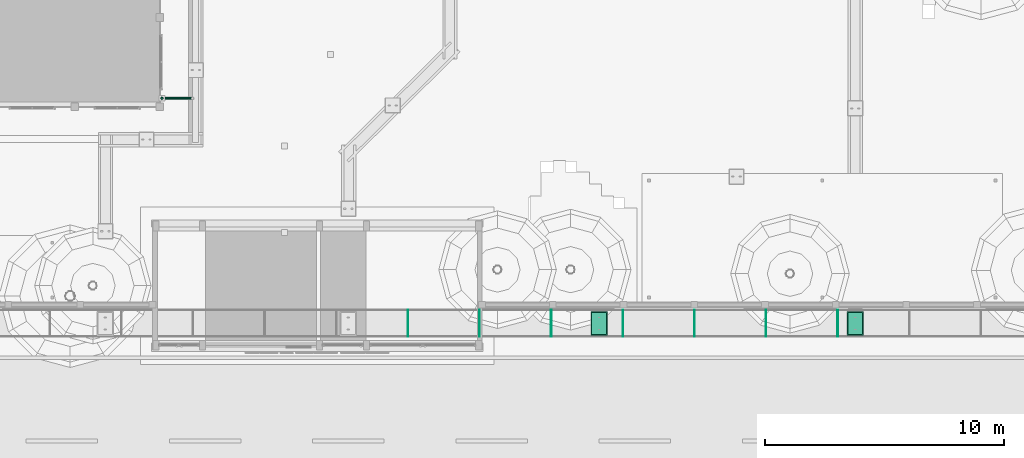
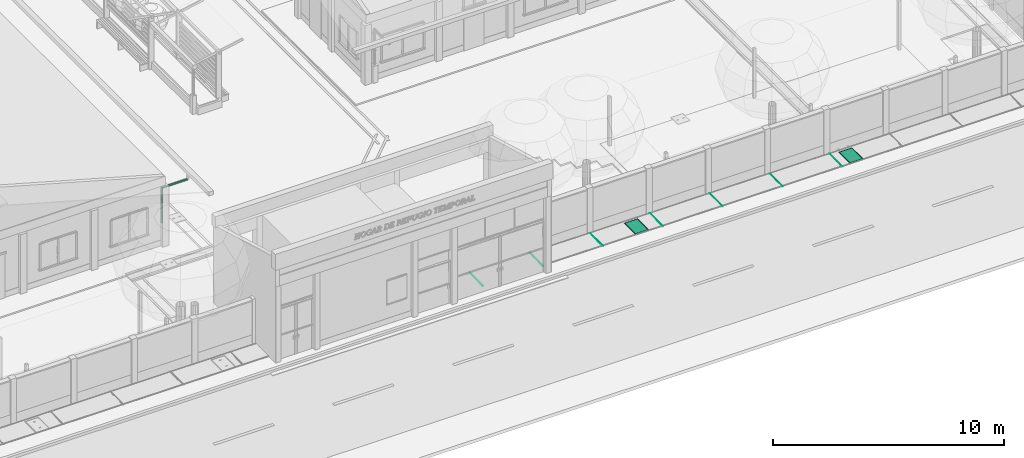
# One storey, part 97 of 177: 9 pipe segments, 4 distribution chamber elements.
"""IFC4 building model written with IfcOpenShell, lengths in metres."""

from ifc_helpers import new_model, si_unit, origin, origin_with_axes, place, context, subcontext, project, spatial, triangles, element, save


model = new_model("IFC4")

# Units and contexts
model_context = context("Model", 3, precision=1e-05, world=origin_with_axes())
body_context = subcontext(model_context, "Body", "Model", "MODEL_VIEW")
ifc_project = project(units=[si_unit("LENGTHUNIT", "METRE"), si_unit("AREAUNIT", "SQUARE_METRE"), si_unit("VOLUMEUNIT", "CUBIC_METRE"), si_unit("PLANEANGLEUNIT", "RADIAN")], contexts=[model_context])

# Site, building, storey
site_placement = place(None, origin_with_axes())
site = spatial("IfcSite", under=ifc_project, at=site_placement, Name="Predio Los Mangos - Morales, San Martín", CompositionType="ELEMENT")
building_placement = place(site_placement, origin())
building = spatial("IfcBuilding", under=site, at=building_placement, Name="Hogar de Refugio Temporal", CompositionType="ELEMENT")
storey_placement = place(building_placement, origin())
storey = spatial("IfcBuildingStorey", under=building, at=storey_placement, Name="NIVEL 1 (NPT +0.00)", CompositionType="ELEMENT", Elevation=0.0)

# Pipe segments
pipe_segment_1_placement = place(storey_placement, origin())
element("IfcPipeSegment", 1, at=pipe_segment_1_placement, inside=storey, Name="montante_desvio", ObjectType="Montante PVC 4\"", PredefinedType="RIGIDSEGMENT", context=body_context, shape_type="Tessellation", body=[
    triangles([(32.98, 26.65, 2.965), (31.69, 26.65, 2.965), (32.98, 26.6225, 2.9576), (31.69, 26.6225, 2.9576), (32.98, 26.6024, 2.9375), (31.69, 26.6024, 2.9375), (32.98, 26.595, 2.91), (31.69, 26.595, 2.91), (32.98, 26.6024, 2.8825), (31.69, 26.6024, 2.8825), (32.98, 26.6225, 2.8624), (31.69, 26.6225, 2.8624), (32.98, 26.65, 2.855), (31.69, 26.65, 2.855), (32.98, 26.6775, 2.8624), (31.69, 26.6775, 2.8624), (32.98, 26.6976, 2.8825), (31.69, 26.6976, 2.8825), (32.98, 26.705, 2.91), (31.69, 26.705, 2.91), (32.98, 26.6976, 2.9375), (31.69, 26.6976, 2.9375), (32.98, 26.6775, 2.9576), (31.69, 26.6775, 2.9576)], [[1, 2, 4], [1, 4, 3], [3, 4, 6], [3, 6, 5], [5, 6, 8], [5, 8, 7], [7, 8, 10], [7, 10, 9], [9, 10, 12], [9, 12, 11], [11, 12, 14], [11, 14, 13], [13, 14, 16], [13, 16, 15], [15, 16, 18], [15, 18, 17], [17, 18, 20], [17, 20, 19], [19, 20, 22], [19, 22, 21], [6, 4, 2], [2, 24, 22], [22, 20, 18], [18, 16, 14], [14, 12, 10], [10, 8, 6], [6, 2, 22], [22, 18, 14], [14, 10, 6], [22, 14, 6], [21, 22, 24], [21, 24, 23], [23, 24, 2], [23, 2, 1], [23, 1, 3], [3, 5, 7], [7, 9, 11], [11, 13, 15], [15, 17, 19], [19, 21, 23], [23, 3, 7], [7, 11, 15], [15, 19, 23], [7, 15, 23]]),
])
pipe_segment_2_placement = place(storey_placement, origin())
element("IfcPipeSegment", 2, at=pipe_segment_2_placement, inside=storey, Name="montante_bajada", ObjectType="Montante PVC 4\"", PredefinedType="RIGIDSEGMENT", context=body_context, shape_type="Tessellation", body=[
    triangles([(31.69, 26.705, 2.91), (31.69, 26.705, 1.05), (31.6625, 26.6976, 2.91), (31.6625, 26.6976, 1.05), (31.6424, 26.6775, 2.91), (31.6424, 26.6775, 1.05), (31.635, 26.65, 2.91), (31.635, 26.65, 1.05), (31.6424, 26.6225, 2.91), (31.6424, 26.6225, 1.05), (31.6625, 26.6024, 2.91), (31.6625, 26.6024, 1.05), (31.69, 26.595, 2.91), (31.69, 26.595, 1.05), (31.7175, 26.6024, 2.91), (31.7175, 26.6024, 1.05), (31.7376, 26.6225, 2.91), (31.7376, 26.6225, 1.05), (31.745, 26.65, 2.91), (31.745, 26.65, 1.05), (31.7376, 26.6775, 2.91), (31.7376, 26.6775, 1.05), (31.7175, 26.6976, 2.91), (31.7175, 26.6976, 1.05)], [[1, 2, 4], [1, 4, 3], [3, 4, 6], [3, 6, 5], [5, 6, 8], [5, 8, 7], [7, 8, 10], [7, 10, 9], [9, 10, 12], [9, 12, 11], [11, 12, 14], [11, 14, 13], [13, 14, 16], [13, 16, 15], [15, 16, 18], [15, 18, 17], [17, 18, 20], [17, 20, 19], [19, 20, 22], [19, 22, 21], [6, 4, 2], [2, 24, 22], [22, 20, 18], [18, 16, 14], [14, 12, 10], [10, 8, 6], [6, 2, 22], [22, 18, 14], [14, 10, 6], [22, 14, 6], [21, 22, 24], [21, 24, 23], [23, 24, 2], [23, 2, 1], [23, 1, 3], [3, 5, 7], [7, 9, 11], [11, 13, 15], [15, 17, 19], [19, 21, 23], [23, 3, 7], [7, 11, 15], [15, 19, 23], [7, 15, 23]]),
])
pipe_segment_3_placement = place(storey_placement, origin())
element("IfcPipeSegment", 3, at=pipe_segment_3_placement, inside=storey, Name="junta_losa", ObjectType="Colector frontal b=0.80 (losa-vereda)", PredefinedType="CULVERT", context=body_context, shape_type="Tessellation", body=[
    triangles([(59.9873, 16.665, 0.15), (60.0127, 16.665, 0.15), (60.0127, 17.79, 0.15), (59.9873, 17.79, 0.15), (59.9873, 16.665, 0.1635), (60.0127, 16.665, 0.1635), (60.0127, 17.79, 0.1635), (59.9873, 17.79, 0.1635)], [[1, 4, 3], [1, 3, 2], [5, 6, 7], [5, 7, 8], [1, 2, 6], [1, 6, 5], [2, 3, 7], [2, 7, 6], [3, 4, 8], [3, 8, 7], [4, 1, 5], [4, 5, 8]]),
])
pipe_segment_4_placement = place(storey_placement, origin())
element("IfcPipeSegment", 4, at=pipe_segment_4_placement, inside=storey, Name="junta_losa", ObjectType="Colector frontal b=0.80 (losa-vereda)", PredefinedType="CULVERT", context=body_context, shape_type="Tessellation", body=[
    triangles([(56.9873, 16.665, 0.15), (57.0127, 16.665, 0.15), (57.0127, 17.79, 0.15), (56.9873, 17.79, 0.15), (56.9873, 16.665, 0.1635), (57.0127, 16.665, 0.1635), (57.0127, 17.79, 0.1635), (56.9873, 17.79, 0.1635)], [[1, 4, 3], [1, 3, 2], [5, 6, 7], [5, 7, 8], [1, 2, 6], [1, 6, 5], [2, 3, 7], [2, 7, 6], [3, 4, 8], [3, 8, 7], [4, 1, 5], [4, 5, 8]]),
])
pipe_segment_5_placement = place(storey_placement, origin())
element("IfcPipeSegment", 5, at=pipe_segment_5_placement, inside=storey, Name="junta_losa", ObjectType="Colector frontal b=0.80 (losa-vereda)", PredefinedType="CULVERT", context=body_context, shape_type="Tessellation", body=[
    triangles([(53.9873, 16.665, 0.15), (54.0127, 16.665, 0.15), (54.0127, 17.79, 0.15), (53.9873, 17.79, 0.15), (53.9873, 16.665, 0.1635), (54.0127, 16.665, 0.1635), (54.0127, 17.79, 0.1635), (53.9873, 17.79, 0.1635)], [[1, 4, 3], [1, 3, 2], [5, 6, 7], [5, 7, 8], [1, 2, 6], [1, 6, 5], [2, 3, 7], [2, 7, 6], [3, 4, 8], [3, 8, 7], [4, 1, 5], [4, 5, 8]]),
])
pipe_segment_6_placement = place(storey_placement, origin())
element("IfcPipeSegment", 6, at=pipe_segment_6_placement, inside=storey, Name="junta_losa", ObjectType="Colector frontal b=0.80 (losa-vereda)", PredefinedType="CULVERT", context=body_context, shape_type="Tessellation", body=[
    triangles([(50.9873, 16.665, 0.15), (51.0127, 16.665, 0.15), (51.0127, 17.79, 0.15), (50.9873, 17.79, 0.15), (50.9873, 16.665, 0.1635), (51.0127, 16.665, 0.1635), (51.0127, 17.79, 0.1635), (50.9873, 17.79, 0.1635)], [[1, 4, 3], [1, 3, 2], [5, 6, 7], [5, 7, 8], [1, 2, 6], [1, 6, 5], [2, 3, 7], [2, 7, 6], [3, 4, 8], [3, 8, 7], [4, 1, 5], [4, 5, 8]]),
])
pipe_segment_7_placement = place(storey_placement, origin())
element("IfcPipeSegment", 7, at=pipe_segment_7_placement, inside=storey, Name="junta_losa", ObjectType="Colector frontal b=0.80 (losa-vereda)", PredefinedType="CULVERT", context=body_context, shape_type="Tessellation", body=[
    triangles([(47.9873, 16.665, 0.15), (48.0127, 16.665, 0.15), (48.0127, 17.79, 0.15), (47.9873, 17.79, 0.15), (47.9873, 16.665, 0.1635), (48.0127, 16.665, 0.1635), (48.0127, 17.79, 0.1635), (47.9873, 17.79, 0.1635)], [[1, 4, 3], [1, 3, 2], [5, 6, 7], [5, 7, 8], [1, 2, 6], [1, 6, 5], [2, 3, 7], [2, 7, 6], [3, 4, 8], [3, 8, 7], [4, 1, 5], [4, 5, 8]]),
])
pipe_segment_8_placement = place(storey_placement, origin())
element("IfcPipeSegment", 8, at=pipe_segment_8_placement, inside=storey, Name="junta_losa", ObjectType="Colector frontal b=0.80 (losa-vereda)", PredefinedType="CULVERT", context=body_context, shape_type="Tessellation", body=[
    triangles([(44.9873, 16.665, 0.15), (45.0127, 16.665, 0.15), (45.0127, 17.79, 0.15), (44.9873, 17.79, 0.15), (44.9873, 16.665, 0.1635), (45.0127, 16.665, 0.1635), (45.0127, 17.79, 0.1635), (44.9873, 17.79, 0.1635)], [[1, 4, 3], [1, 3, 2], [5, 6, 7], [5, 7, 8], [1, 2, 6], [1, 6, 5], [2, 3, 7], [2, 7, 6], [3, 4, 8], [3, 8, 7], [4, 1, 5], [4, 5, 8]]),
])
pipe_segment_9_placement = place(storey_placement, origin())
element("IfcPipeSegment", 9, at=pipe_segment_9_placement, inside=storey, Name="junta_losa", ObjectType="Colector frontal b=0.80 (losa-vereda)", PredefinedType="CULVERT", context=body_context, shape_type="Tessellation", body=[
    triangles([(41.9873, 16.665, 0.15), (42.0127, 16.665, 0.15), (42.0127, 17.79, 0.15), (41.9873, 17.79, 0.15), (41.9873, 16.665, 0.1635), (42.0127, 16.665, 0.1635), (42.0127, 17.79, 0.1635), (41.9873, 17.79, 0.1635)], [[1, 4, 3], [1, 3, 2], [5, 6, 7], [5, 7, 8], [1, 2, 6], [1, 6, 5], [2, 3, 7], [2, 7, 6], [3, 4, 8], [3, 8, 7], [4, 1, 5], [4, 5, 8]]),
])

# Distribution chamber elements
distribution_chamber_element_1_placement = place(storey_placement, origin())
element("IfcDistributionChamberElement", 10, at=distribution_chamber_element_1_placement, inside=storey, Name="tapa_junta", ObjectType="Tapa ciega de registro del colector", PredefinedType="INSPECTIONCHAMBER", context=body_context, shape_type="Tessellation", body=[
    triangles([(60.385, 16.72, 0.161), (61.075, 16.72, 0.161), (61.075, 17.71, 0.161), (60.385, 17.71, 0.161), (60.385, 16.72, 0.164), (61.075, 16.72, 0.164), (61.075, 17.71, 0.164), (60.385, 17.71, 0.164)], [[1, 4, 3], [1, 3, 2], [5, 6, 7], [5, 7, 8], [1, 2, 6], [1, 6, 5], [2, 3, 7], [2, 7, 6], [3, 4, 8], [3, 8, 7], [4, 1, 5], [4, 5, 8]]),
])
distribution_chamber_element_2_placement = place(storey_placement, origin())
element("IfcDistributionChamberElement", 11, at=distribution_chamber_element_2_placement, inside=storey, Name="tapa_ciega", ObjectType="Tapa ciega de registro del colector", PredefinedType="INSPECTIONCHAMBER", context=body_context, shape_type="Tessellation", body=[
    triangles([(60.42, 16.755, 0.161), (61.04, 16.755, 0.161), (61.04, 17.675, 0.161), (60.42, 17.675, 0.161), (60.42, 16.755, 0.17), (61.04, 16.755, 0.17), (61.04, 17.675, 0.17), (60.42, 17.675, 0.17)], [[1, 4, 3], [1, 3, 2], [5, 6, 7], [5, 7, 8], [1, 2, 6], [1, 6, 5], [2, 3, 7], [2, 7, 6], [3, 4, 8], [3, 8, 7], [4, 1, 5], [4, 5, 8]]),
])
distribution_chamber_element_3_placement = place(storey_placement, origin())
element("IfcDistributionChamberElement", 12, at=distribution_chamber_element_3_placement, inside=storey, Name="tapa_junta", ObjectType="Tapa ciega de registro del colector", PredefinedType="INSPECTIONCHAMBER", context=body_context, shape_type="Tessellation", body=[
    triangles([(49.655, 16.72, 0.161), (50.345, 16.72, 0.161), (50.345, 17.71, 0.161), (49.655, 17.71, 0.161), (49.655, 16.72, 0.164), (50.345, 16.72, 0.164), (50.345, 17.71, 0.164), (49.655, 17.71, 0.164)], [[1, 4, 3], [1, 3, 2], [5, 6, 7], [5, 7, 8], [1, 2, 6], [1, 6, 5], [2, 3, 7], [2, 7, 6], [3, 4, 8], [3, 8, 7], [4, 1, 5], [4, 5, 8]]),
])
distribution_chamber_element_4_placement = place(storey_placement, origin())
element("IfcDistributionChamberElement", 13, at=distribution_chamber_element_4_placement, inside=storey, Name="tapa_ciega", ObjectType="Tapa ciega de registro del colector", PredefinedType="INSPECTIONCHAMBER", context=body_context, shape_type="Tessellation", body=[
    triangles([(49.69, 16.755, 0.161), (50.31, 16.755, 0.161), (50.31, 17.675, 0.161), (49.69, 17.675, 0.161), (49.69, 16.755, 0.17), (50.31, 16.755, 0.17), (50.31, 17.675, 0.17), (49.69, 17.675, 0.17)], [[1, 4, 3], [1, 3, 2], [5, 6, 7], [5, 7, 8], [1, 2, 6], [1, 6, 5], [2, 3, 7], [2, 7, 6], [3, 4, 8], [3, 8, 7], [4, 1, 5], [4, 5, 8]]),
])

save(model, "model.ifc")
